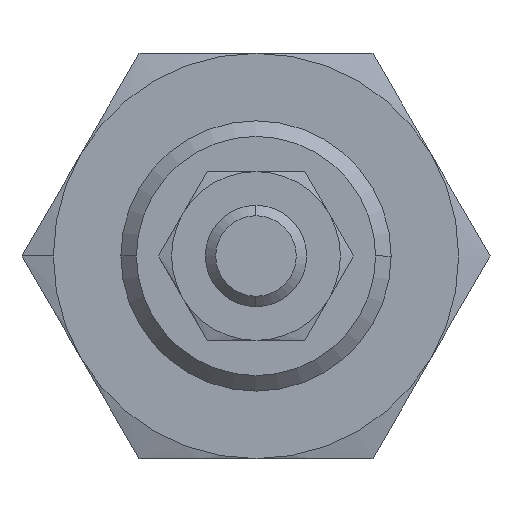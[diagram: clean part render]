
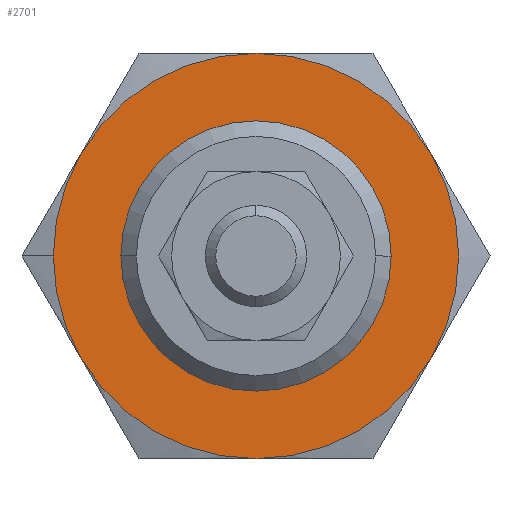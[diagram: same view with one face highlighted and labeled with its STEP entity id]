
A CAD part, left-side view. The second image highlights one B-rep face of the part: STEP entity #2701.
In plain terms, the highlighted planar face has unit normal (-1, 0, 0).
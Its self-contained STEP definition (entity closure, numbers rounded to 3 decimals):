
#45 = EDGE_CURVE ( 'NONE', #4277, #3615, #898, .T. ) ;
#84 = DIRECTION ( 'NONE',  ( 1., 0., 0. ) ) ;
#149 = VERTEX_POINT ( 'NONE', #2341 ) ;
#241 = DIRECTION ( 'NONE',  ( 0., 1., 0. ) ) ;
#257 = CIRCLE ( 'NONE', #684, 12. ) ;
#289 = CARTESIAN_POINT ( 'NONE',  ( -13.5, 12., 0. ) ) ;
#348 = VERTEX_POINT ( 'NONE', #1328 ) ;
#368 = DIRECTION ( 'NONE',  ( 1., 0., 0. ) ) ;
#373 = VERTEX_POINT ( 'NONE', #4258 ) ;
#383 = EDGE_CURVE ( 'NONE', #149, #1009, #2996, .T. ) ;
#411 = ORIENTED_EDGE ( 'NONE', *, *, #383, .F. ) ;
#515 = ORIENTED_EDGE ( 'NONE', *, *, #831, .F. ) ;
#612 = EDGE_CURVE ( 'NONE', #2718, #373, #2128, .T. ) ;
#642 = FACE_OUTER_BOUND ( 'NONE', #3010, .T. ) ;
#684 = AXIS2_PLACEMENT_3D ( 'NONE', #804, #3062, #4081 ) ;
#742 = CARTESIAN_POINT ( 'NONE',  ( -13.5, 0., 0. ) ) ;
#798 = ORIENTED_EDGE ( 'NONE', *, *, #1827, .F. ) ;
#801 = CIRCLE ( 'NONE', #2205, 12. ) ;
#804 = CARTESIAN_POINT ( 'NONE',  ( -13.5, 0., 0. ) ) ;
#831 = EDGE_CURVE ( 'NONE', #2124, #348, #4122, .T. ) ;
#867 = ORIENTED_EDGE ( 'NONE', *, *, #1242, .T. ) ;
#897 = DIRECTION ( 'NONE',  ( 1., 0., 0. ) ) ;
#898 = CIRCLE ( 'NONE', #2022, 8. ) ;
#952 = DIRECTION ( 'NONE',  ( 0., 1., 0. ) ) ;
#982 = CARTESIAN_POINT ( 'NONE',  ( -13.5, 0., 0. ) ) ;
#1009 = VERTEX_POINT ( 'NONE', #3133 ) ;
#1186 = DIRECTION ( 'NONE',  ( 1., 0., 0. ) ) ;
#1242 = EDGE_CURVE ( 'NONE', #3615, #4277, #1712, .T. ) ;
#1265 = DIRECTION ( 'NONE',  ( -1., 0., 0. ) ) ;
#1273 = DIRECTION ( 'NONE',  ( 1., 0., 0. ) ) ;
#1327 = DIRECTION ( 'NONE',  ( 0., 1., 0. ) ) ;
#1328 = CARTESIAN_POINT ( 'NONE',  ( -13.5, 10.392, -6. ) ) ;
#1631 = CARTESIAN_POINT ( 'NONE',  ( -13.5, -8., 0. ) ) ;
#1712 = CIRCLE ( 'NONE', #2613, 8. ) ;
#1727 = AXIS2_PLACEMENT_3D ( 'NONE', #1815, #2576, #2895 ) ;
#1743 = EDGE_CURVE ( 'NONE', #1009, #2124, #1781, .T. ) ;
#1781 = CIRCLE ( 'NONE', #1727, 12. ) ;
#1815 = CARTESIAN_POINT ( 'NONE',  ( -13.5, 0., 0. ) ) ;
#1827 = EDGE_CURVE ( 'NONE', #373, #3035, #801, .T. ) ;
#1860 = CARTESIAN_POINT ( 'NONE',  ( -13.5, 0., 0. ) ) ;
#1952 = ORIENTED_EDGE ( 'NONE', *, *, #4038, .F. ) ;
#2022 = AXIS2_PLACEMENT_3D ( 'NONE', #742, #84, #3031 ) ;
#2027 = DIRECTION ( 'NONE',  ( 0., 1., 0. ) ) ;
#2079 = AXIS2_PLACEMENT_3D ( 'NONE', #1860, #2231, #241 ) ;
#2124 = VERTEX_POINT ( 'NONE', #3850 ) ;
#2128 = CIRCLE ( 'NONE', #2627, 12. ) ;
#2205 = AXIS2_PLACEMENT_3D ( 'NONE', #3860, #897, #3542 ) ;
#2228 = FACE_BOUND ( 'NONE', #2533, .T. ) ;
#2231 = DIRECTION ( 'NONE',  ( 1., 0., 0. ) ) ;
#2252 = ORIENTED_EDGE ( 'NONE', *, *, #4117, .F. ) ;
#2341 = CARTESIAN_POINT ( 'NONE',  ( -13.5, -10.392, 6. ) ) ;
#2363 = AXIS2_PLACEMENT_3D ( 'NONE', #289, #1265, #3613 ) ;
#2505 = CARTESIAN_POINT ( 'NONE',  ( -13.5, 8., 0. ) ) ;
#2533 = EDGE_LOOP ( 'NONE', ( #3200, #867 ) ) ;
#2576 = DIRECTION ( 'NONE',  ( 1., 0., 0. ) ) ;
#2582 = ORIENTED_EDGE ( 'NONE', *, *, #1743, .F. ) ;
#2613 = AXIS2_PLACEMENT_3D ( 'NONE', #2973, #3908, #2027 ) ;
#2627 = AXIS2_PLACEMENT_3D ( 'NONE', #2881, #1186, #3823 ) ;
#2648 = CARTESIAN_POINT ( 'NONE',  ( -13.5, 12., 0. ) ) ;
#2701 = ADVANCED_FACE ( 'NONE', ( #642, #2228 ), #3885, .T. ) ;
#2718 = VERTEX_POINT ( 'NONE', #2648 ) ;
#2881 = CARTESIAN_POINT ( 'NONE',  ( -13.5, 0., 0. ) ) ;
#2895 = DIRECTION ( 'NONE',  ( 0., 1., 0. ) ) ;
#2973 = CARTESIAN_POINT ( 'NONE',  ( -13.5, 0., 0. ) ) ;
#2996 = CIRCLE ( 'NONE', #4016, 12. ) ;
#3010 = EDGE_LOOP ( 'NONE', ( #2252, #515, #2582, #411, #1952, #798, #4174 ) ) ;
#3031 = DIRECTION ( 'NONE',  ( 0., 1., 0. ) ) ;
#3035 = VERTEX_POINT ( 'NONE', #4160 ) ;
#3062 = DIRECTION ( 'NONE',  ( 1., 0., 0. ) ) ;
#3133 = CARTESIAN_POINT ( 'NONE',  ( -13.5, -10.392, -6. ) ) ;
#3200 = ORIENTED_EDGE ( 'NONE', *, *, #45, .T. ) ;
#3542 = DIRECTION ( 'NONE',  ( 0., 1., 0. ) ) ;
#3613 = DIRECTION ( 'NONE',  ( 0., 1., 0. ) ) ;
#3615 = VERTEX_POINT ( 'NONE', #2505 ) ;
#3667 = CARTESIAN_POINT ( 'NONE',  ( -13.5, 0., 0. ) ) ;
#3823 = DIRECTION ( 'NONE',  ( 0., 1., 0. ) ) ;
#3850 = CARTESIAN_POINT ( 'NONE',  ( -13.5, 0., -12. ) ) ;
#3860 = CARTESIAN_POINT ( 'NONE',  ( -13.5, 0., 0. ) ) ;
#3885 = PLANE ( 'NONE',  #2363 ) ;
#3908 = DIRECTION ( 'NONE',  ( 1., 0., 0. ) ) ;
#3927 = AXIS2_PLACEMENT_3D ( 'NONE', #3667, #368, #1327 ) ;
#3936 = CIRCLE ( 'NONE', #2079, 12. ) ;
#4016 = AXIS2_PLACEMENT_3D ( 'NONE', #982, #1273, #952 ) ;
#4038 = EDGE_CURVE ( 'NONE', #3035, #149, #257, .T. ) ;
#4081 = DIRECTION ( 'NONE',  ( 0., 1., 0. ) ) ;
#4117 = EDGE_CURVE ( 'NONE', #348, #2718, #3936, .T. ) ;
#4122 = CIRCLE ( 'NONE', #3927, 12. ) ;
#4160 = CARTESIAN_POINT ( 'NONE',  ( -13.5, 0., 12. ) ) ;
#4174 = ORIENTED_EDGE ( 'NONE', *, *, #612, .F. ) ;
#4258 = CARTESIAN_POINT ( 'NONE',  ( -13.5, 10.392, 6. ) ) ;
#4277 = VERTEX_POINT ( 'NONE', #1631 ) ;
